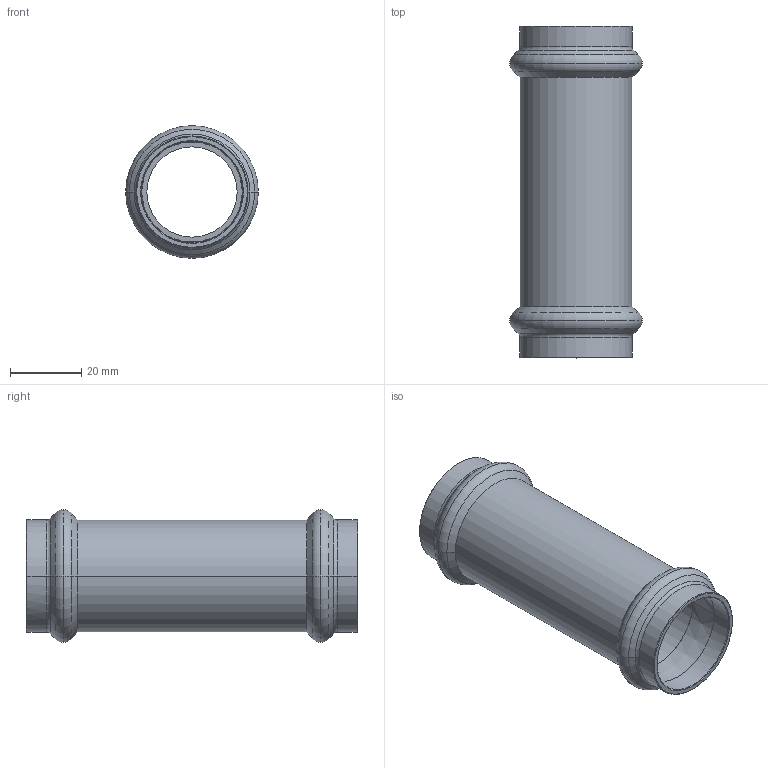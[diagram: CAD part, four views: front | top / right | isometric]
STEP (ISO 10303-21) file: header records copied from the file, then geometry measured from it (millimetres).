
FILE_DESCRIPTION(('CoCreate Modeling STEP Export'),'2;1');
FILE_NAME('8275VW28.stp','2013-01-29T12:44:15',(''),(''),'CoCreate Modeling STEP processor for AP214 (Solid Model)','CoCreate Modeling 17.00A 17-Jun-2010 (C) Parametric Technology GmbH','');
FILE_SCHEMA(('AUTOMOTIVE_DESIGN { 1 0 10303 214 1 1 1 1 }'));
Length unit declared in the file: millimetre
Products named in the file (1): 8275VW28
Bounding box: 37.2 x 93 x 37.2 mm (x, y, z)
Volume: 16539.1 mm3; surface area: 18820.4 mm2
Topology: 1 solids, 1 shells, 62 faces, 142 edges, 86 vertices
Faces by surface type: cylinder 20, cone 20, torus 16, plane 6
Entity records: 1396 total; most frequent: ORIENTED_EDGE 284, CARTESIAN_POINT 209, DIRECTION 206, EDGE_CURVE 142, VERTEX_POINT 86, AXIS2_PLACEMENT_3D 83, EDGE_LOOP 68, FACE_OUTER_BOUND 62
